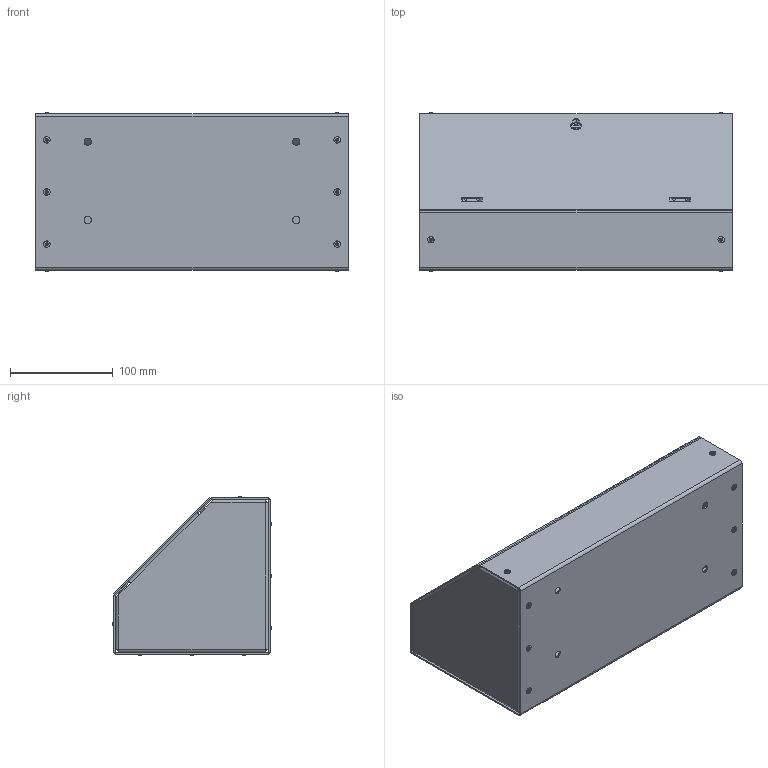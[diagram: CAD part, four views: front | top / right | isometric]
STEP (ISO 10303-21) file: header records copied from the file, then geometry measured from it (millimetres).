
FILE_DESCRIPTION (( 'STEP AP203' ), '1' );
FILE_NAME ('at6612.STEP', '2017-10-03T18:21:43', ( '' ), ( '' ), 'SwSTEP 2.0', 'SolidWorks 2014', '' );
FILE_SCHEMA (( 'CONFIG_CONTROL_DESIGN' ));
Length unit declared in the file: inch
Products named in the file (6): at6612; 89159101; 89159121; 16111002_INSTALLED .144 THICKNESS; 89159144; 89159087
Assembly tree (21 placements, depth 3):
  at6612
    89159144
      89159101
      89159121  x2
      16111002_INSTALLED .144 THICKNESS  x16
    89159087
Bounding box: 304.8 x 154.23 x 154.23 mm (x, y, z)
Volume: 319467.4 mm3; surface area: 465046.6 mm2
Topology: 20 solids, 20 shells, 699 faces, 1598 edges, 952 vertices
Faces by surface type: cylinder 272, plane 247, cone 96, bspline 80, torus 4
Entity records: 10926 total; most frequent: CARTESIAN_POINT 2132, DIRECTION 1640, ORIENTED_EDGE 1574, EDGE_CURVE 787, AXIS2_PLACEMENT_3D 569, LINE 502, VECTOR 502, VERTEX_POINT 491
